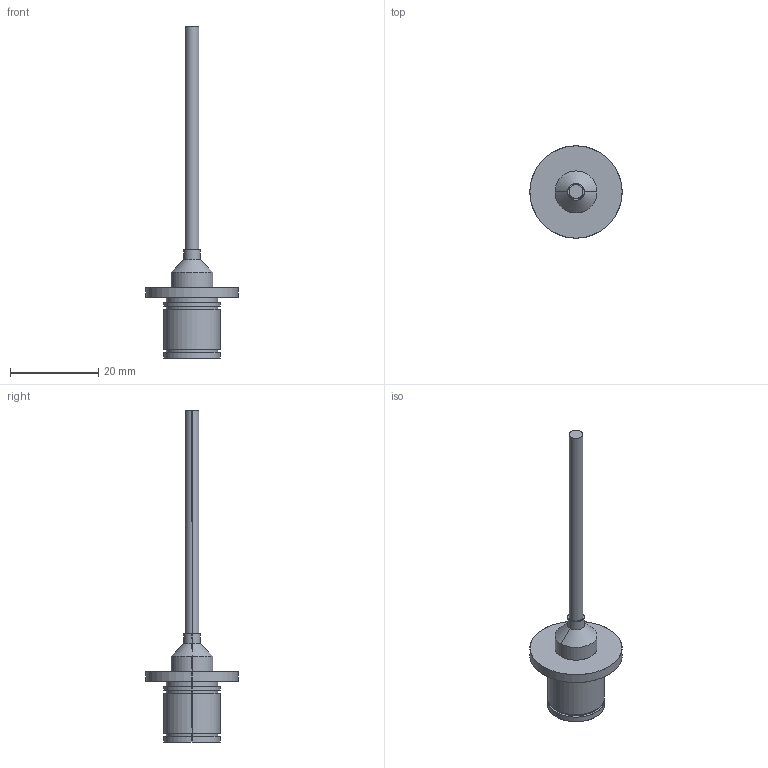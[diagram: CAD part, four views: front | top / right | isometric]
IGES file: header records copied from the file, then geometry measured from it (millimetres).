
Start section: SolidWorks IGES file using analytic representation for surfaces
Global section: file name: C:\Documents and Settings\Administrator\My Documents\EDI\3D\finished sensors\KD-1950 Flanged.IGS; native system: SolidWorks 2008; preprocessor: SolidWorks 2008; author: Administrator; date: 100305.114226; units: inch
Bounding box: 20.95 x 20.95 x 75.36 mm (x, y, z)
Surface area: 2167.6 mm2 (no closed solid volume)
Topology: 0 solids, 0 shells, 32 faces, 664 edges, 664 vertices
Faces by surface type: revolution 22, bspline 10
